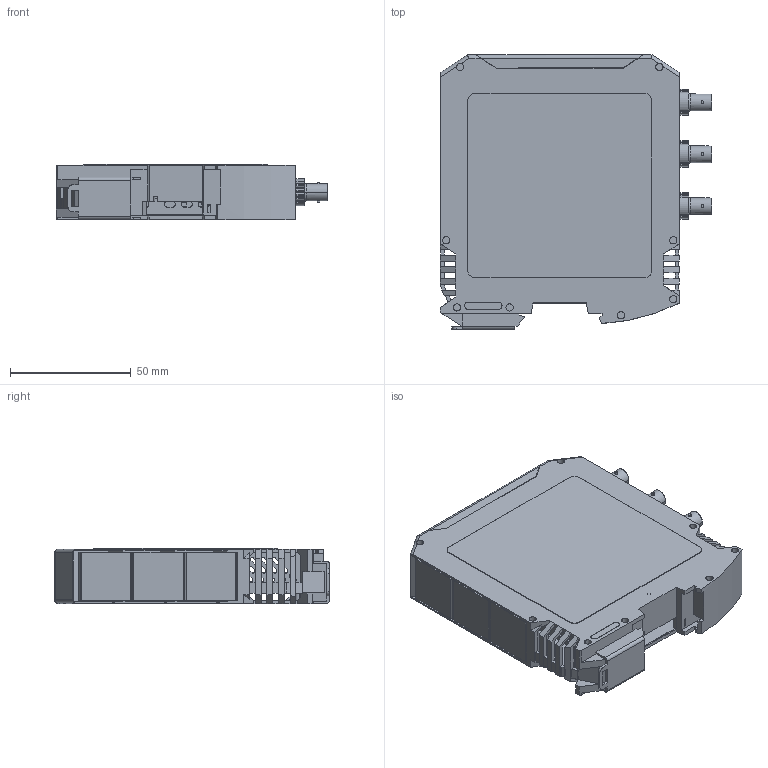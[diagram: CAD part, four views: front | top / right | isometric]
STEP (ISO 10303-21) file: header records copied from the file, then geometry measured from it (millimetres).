
FILE_DESCRIPTION (( 'STEP AP214' ), '1' );
FILE_NAME ('FTX-302-PWR+.STEP', '2015-11-17T00:31:23', ( 'Daryl' ), ( 'Microsoft' ), 'SwSTEP 2.0', 'SolidWorks 2014', '' );
FILE_SCHEMA (( 'AUTOMOTIVE_DESIGN' ));
Length unit declared in the file: millimetre
Products named in the file (1): FTX-302-PWR+
Bounding box: 112.46 x 113.78 x 22.95 mm (x, y, z)
Volume: 55145.2 mm3; surface area: 80839.7 mm2
Topology: 1 solids, 25 shells, 2854 faces, 8337 edges, 5541 vertices
Faces by surface type: plane 1619, cylinder 644, bspline 489, cone 96, torus 6
Entity records: 177634 total; most frequent: CARTESIAN_POINT 75398, ORIENTED_EDGE 16674, DIRECTION 11541, EDGE_CURVE 8337, VERTEX_POINT 5541, VECTOR 5229, LINE 5229, AXIS2_PLACEMENT_3D 3156
